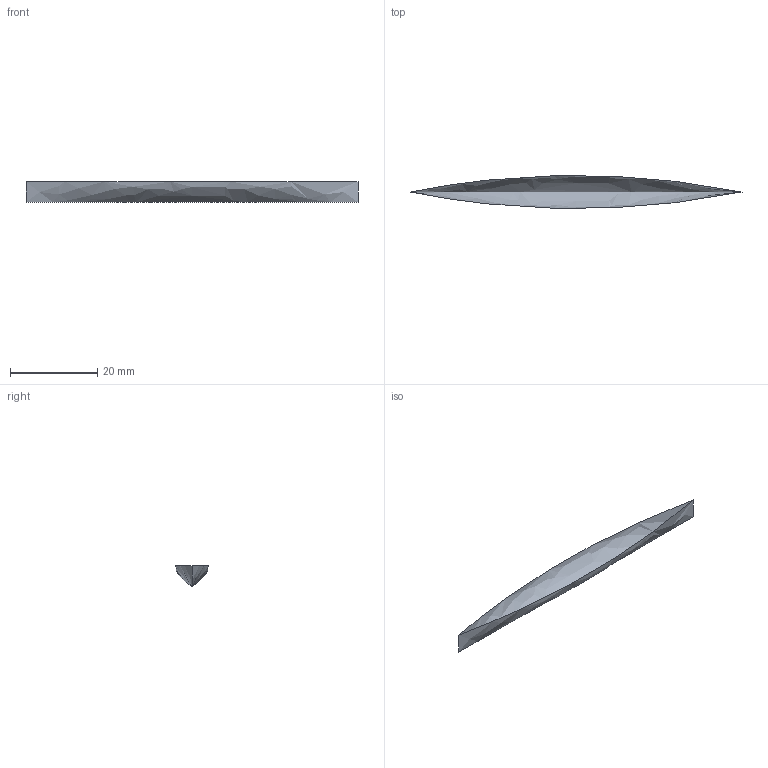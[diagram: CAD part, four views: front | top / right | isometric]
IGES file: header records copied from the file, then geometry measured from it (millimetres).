
Bounding box: 76.2 x 7.49 x 4.76 mm (x, y, z)
Surface area: 863.9 mm2 (no closed solid volume)
Topology: 0 solids, 0 shells, 2 faces, 11 edges, 12 vertices
Faces by surface type: bspline 2
